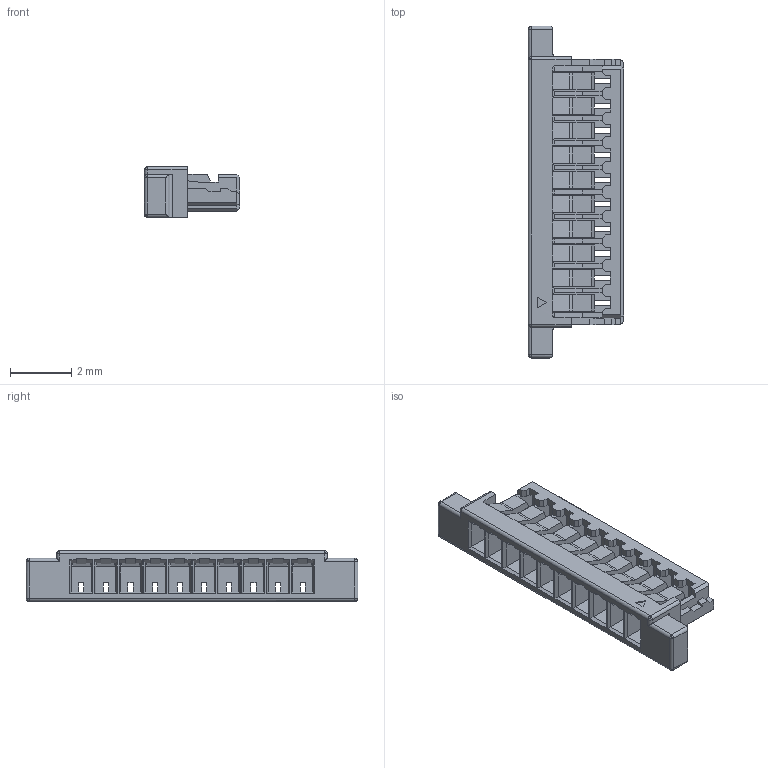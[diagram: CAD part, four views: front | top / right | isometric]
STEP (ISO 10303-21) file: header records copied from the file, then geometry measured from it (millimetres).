
FILE_DESCRIPTION((''),'2;1');
FILE_NAME('SCT0801H-10','2023-04-10T17:09:10',('Administrator'),(''),'CREO PARAMETRIC BY PTC INC, 2018050','CREO PARAMETRIC BY PTC INC, 2018050','');
FILE_SCHEMA(('CONFIG_CONTROL_DESIGN'));
Length unit declared in the file: millimetre
Products named in the file (1): SCT0801H-10
Bounding box: 3.1 x 10.8 x 1.65 mm (x, y, z)
Volume: 19.2 mm3; surface area: 187.6 mm2
Topology: 1 solids, 1 shells, 538 faces, 1484 edges, 911 vertices
Faces by surface type: plane 476, cylinder 50, sphere 12
Entity records: 16740 total; most frequent: CARTESIAN_POINT 3149, ORIENTED_EDGE 2952, DIRECTION 2585, EDGE_CURVE 1476, VECTOR 1357, LINE 1357, VERTEX_POINT 911, AXIS2_PLACEMENT_3D 614
